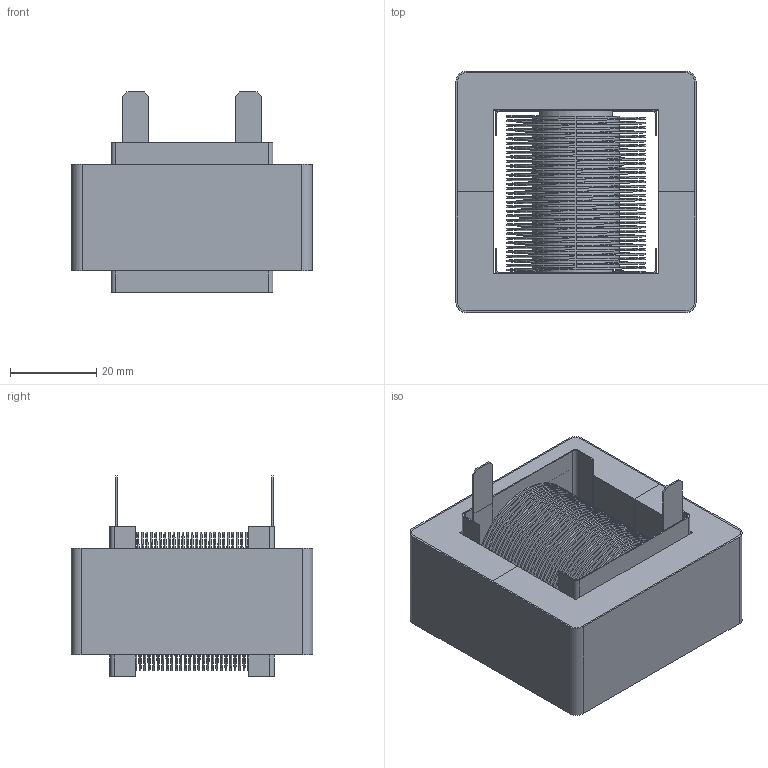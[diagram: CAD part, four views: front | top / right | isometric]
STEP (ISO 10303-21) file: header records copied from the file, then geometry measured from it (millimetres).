
FILE_DESCRIPTION (( 'STEP AP214' ), '1' );
FILE_NAME ('EK55246-221M-50AH.STEP', '2021-05-28T07:03:13', ( '' ), ( '' ), 'SwSTEP 2.0', 'SolidWorks 2015', '' );
FILE_SCHEMA (( 'AUTOMOTIVE_DESIGN' ));
Length unit declared in the file: millimetre
Products named in the file (6): HELICAL COIL; CENTER MYLAR; EK55246-221M-50AH; E CORE; SIDE MYLAR; WRAPPER
Assembly tree (7 placements, depth 2):
  EK55246-221M-50AH
    HELICAL COIL
    E CORE  x2
    SIDE MYLAR  x2
    CENTER MYLAR
    WRAPPER
Bounding box: 55.62 x 55.9 x 46.3 mm (x, y, z)
Volume: 57891.2 mm3; surface area: 72683.7 mm2
Topology: 9 solids, 9 shells, 412 faces, 1120 edges, 744 vertices
Faces by surface type: plane 181, cylinder 172, bspline 59
Entity records: 20726 total; most frequent: CARTESIAN_POINT 10250, ORIENTED_EDGE 2072, DIRECTION 1344, EDGE_CURVE 1036, VERTEX_POINT 688, LINE 596, VECTOR 596, EDGE_LOOP 402
